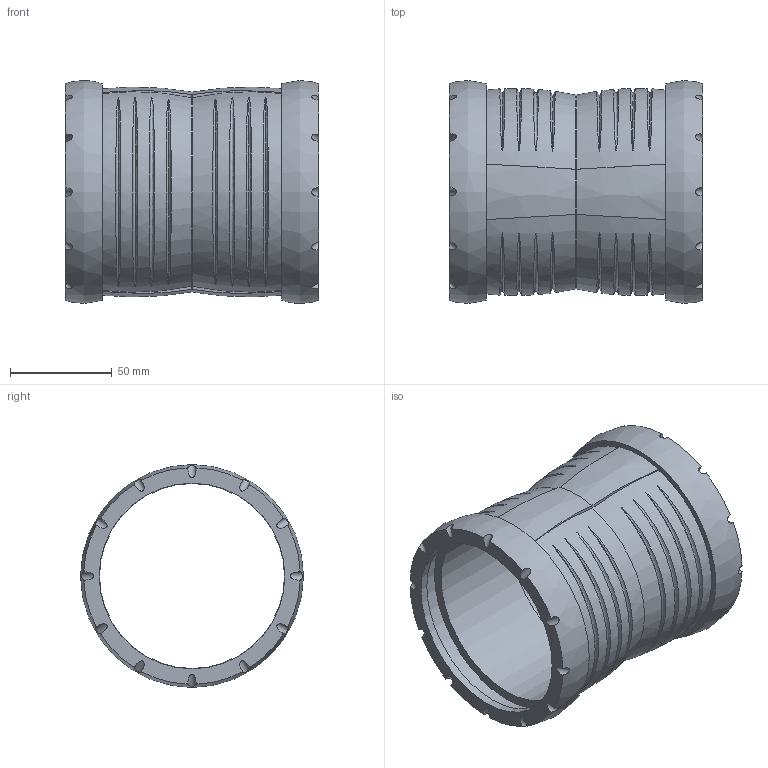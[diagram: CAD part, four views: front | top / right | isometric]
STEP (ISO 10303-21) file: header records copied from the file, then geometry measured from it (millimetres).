
FILE_DESCRIPTION(/* description */ (''),/* implementation_level */ '2;1');
FILE_NAME(/* name */ 'H:\Geberit-Teile\Export\Doppelsteckmuffe\stp\393417.stp',/* time_stamp */ '2017-02-14T08:57:55+01:00',/* author */ ('seihe2'),/* organization */ (''),/* preprocessor_version */ 'ST-DEVELOPER v15.2',/* originating_system */ 'Autodesk Inventor 2014',/* authorisation */ '');
FILE_SCHEMA (('AUTOMOTIVE_DESIGN { 1 0 10303 214 3 1 1 }'));
Length unit declared in the file: millimetre
Products named in the file (1): 393417
Bounding box: 124.4 x 109.5 x 109.5 mm (x, y, z)
Volume: 194639.6 mm3; surface area: 92759.4 mm2
Topology: 2 solids, 2 shells, 86 faces, 216 edges, 156 vertices
Faces by surface type: bspline 46, cylinder 30, plane 10
Full cylindrical faces by diameter (mm): 90.9 x2, 91.2 x2, 100.2 x2
Entity records: 7075 total; most frequent: CARTESIAN_POINT 5225, ORIENTED_EDGE 416, DIRECTION 250, EDGE_CURVE 208, VERTEX_POINT 154, AXIS2_PLACEMENT_3D 125, B_SPLINE_CURVE_WITH_KNOTS 122, EDGE_LOOP 118
